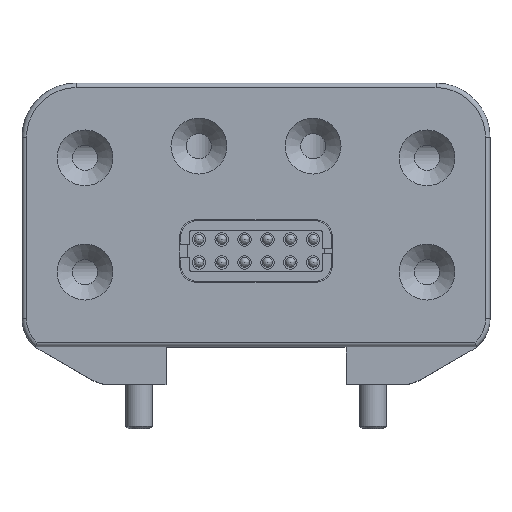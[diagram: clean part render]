
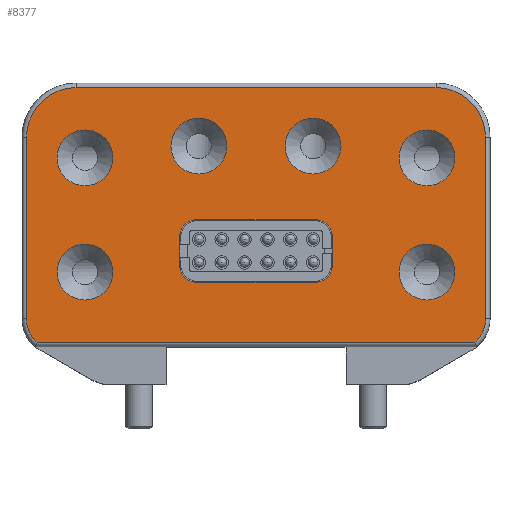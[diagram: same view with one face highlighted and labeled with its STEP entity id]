
A CAD part, top view. The second image highlights one B-rep face of the part: STEP entity #8377.
In plain terms, the highlighted planar face has unit normal (0, 0, 1).
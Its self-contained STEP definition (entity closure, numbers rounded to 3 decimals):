
#259=FACE_BOUND('',#1404,.T.);
#260=FACE_BOUND('',#1405,.T.);
#261=FACE_BOUND('',#1406,.T.);
#262=FACE_BOUND('',#1407,.T.);
#263=FACE_BOUND('',#1408,.T.);
#264=FACE_BOUND('',#1409,.T.);
#265=FACE_BOUND('',#1410,.T.);
#465=PLANE('',#9233);
#854=FACE_OUTER_BOUND('',#1403,.T.);
#1403=EDGE_LOOP('',(#6653,#6654,#6655,#6656,#6657,#6658,#6659,#6660));
#1404=EDGE_LOOP('',(#6661));
#1405=EDGE_LOOP('',(#6662));
#1406=EDGE_LOOP('',(#6663));
#1407=EDGE_LOOP('',(#6664,#6665,#6666,#6667,#6668,#6669,#6670,#6671));
#1408=EDGE_LOOP('',(#6672));
#1409=EDGE_LOOP('',(#6673));
#1410=EDGE_LOOP('',(#6674));
#1965=LINE('',#14095,#2516);
#1968=LINE('',#14138,#2519);
#1970=LINE('',#14150,#2521);
#1972=LINE('',#14162,#2523);
#1985=LINE('',#14212,#2536);
#1986=LINE('',#14216,#2537);
#1987=LINE('',#14220,#2538);
#1988=LINE('',#14223,#2539);
#2516=VECTOR('',#11212,10.);
#2519=VECTOR('',#11227,10.);
#2521=VECTOR('',#11241,10.);
#2523=VECTOR('',#11255,10.);
#2536=VECTOR('',#11304,10.);
#2537=VECTOR('',#11307,10.);
#2538=VECTOR('',#11310,10.);
#2539=VECTOR('',#11313,10.);
#3035=CIRCLE('',#9203,3.5);
#3041=CIRCLE('',#9211,5.5);
#3045=CIRCLE('',#9217,5.5);
#3048=CIRCLE('',#9222,3.5);
#3055=CIRCLE('',#9234,3.1);
#3056=CIRCLE('',#9235,3.1);
#3057=CIRCLE('',#9236,3.1);
#3058=CIRCLE('',#9237,2.);
#3059=CIRCLE('',#9238,2.);
#3060=CIRCLE('',#9239,2.);
#3061=CIRCLE('',#9240,2.);
#3062=CIRCLE('',#9241,3.1);
#3063=CIRCLE('',#9242,3.1);
#3064=CIRCLE('',#9243,3.1);
#3727=VERTEX_POINT('',#14093);
#3728=VERTEX_POINT('',#14094);
#3731=VERTEX_POINT('',#14128);
#3733=VERTEX_POINT('',#14134);
#3735=VERTEX_POINT('',#14140);
#3737=VERTEX_POINT('',#14146);
#3739=VERTEX_POINT('',#14152);
#3741=VERTEX_POINT('',#14158);
#3756=VERTEX_POINT('',#14202);
#3757=VERTEX_POINT('',#14204);
#3758=VERTEX_POINT('',#14206);
#3759=VERTEX_POINT('',#14208);
#3760=VERTEX_POINT('',#14209);
#3761=VERTEX_POINT('',#14211);
#3762=VERTEX_POINT('',#14213);
#3763=VERTEX_POINT('',#14215);
#3764=VERTEX_POINT('',#14217);
#3765=VERTEX_POINT('',#14219);
#3766=VERTEX_POINT('',#14221);
#3767=VERTEX_POINT('',#14224);
#3768=VERTEX_POINT('',#14226);
#3769=VERTEX_POINT('',#14228);
#4748=EDGE_CURVE('',#3727,#3728,#1965,.T.);
#4752=EDGE_CURVE('',#3728,#3731,#3035,.T.);
#4757=EDGE_CURVE('',#3731,#3733,#1968,.T.);
#4760=EDGE_CURVE('',#3733,#3735,#3041,.T.);
#4763=EDGE_CURVE('',#3735,#3737,#1970,.T.);
#4766=EDGE_CURVE('',#3737,#3739,#3045,.T.);
#4769=EDGE_CURVE('',#3739,#3741,#1972,.T.);
#4771=EDGE_CURVE('',#3741,#3727,#3048,.T.);
#4790=EDGE_CURVE('',#3756,#3756,#3055,.T.);
#4791=EDGE_CURVE('',#3757,#3757,#3056,.T.);
#4792=EDGE_CURVE('',#3758,#3758,#3057,.T.);
#4793=EDGE_CURVE('',#3759,#3760,#3058,.T.);
#4794=EDGE_CURVE('',#3760,#3761,#1985,.T.);
#4795=EDGE_CURVE('',#3761,#3762,#3059,.T.);
#4796=EDGE_CURVE('',#3762,#3763,#1986,.T.);
#4797=EDGE_CURVE('',#3763,#3764,#3060,.T.);
#4798=EDGE_CURVE('',#3764,#3765,#1987,.T.);
#4799=EDGE_CURVE('',#3765,#3766,#3061,.T.);
#4800=EDGE_CURVE('',#3766,#3759,#1988,.T.);
#4801=EDGE_CURVE('',#3767,#3767,#3062,.T.);
#4802=EDGE_CURVE('',#3768,#3768,#3063,.T.);
#4803=EDGE_CURVE('',#3769,#3769,#3064,.T.);
#6653=ORIENTED_EDGE('',*,*,#4748,.F.);
#6654=ORIENTED_EDGE('',*,*,#4771,.F.);
#6655=ORIENTED_EDGE('',*,*,#4769,.F.);
#6656=ORIENTED_EDGE('',*,*,#4766,.F.);
#6657=ORIENTED_EDGE('',*,*,#4763,.F.);
#6658=ORIENTED_EDGE('',*,*,#4760,.F.);
#6659=ORIENTED_EDGE('',*,*,#4757,.F.);
#6660=ORIENTED_EDGE('',*,*,#4752,.F.);
#6661=ORIENTED_EDGE('',*,*,#4790,.F.);
#6662=ORIENTED_EDGE('',*,*,#4791,.F.);
#6663=ORIENTED_EDGE('',*,*,#4792,.F.);
#6664=ORIENTED_EDGE('',*,*,#4793,.T.);
#6665=ORIENTED_EDGE('',*,*,#4794,.T.);
#6666=ORIENTED_EDGE('',*,*,#4795,.T.);
#6667=ORIENTED_EDGE('',*,*,#4796,.T.);
#6668=ORIENTED_EDGE('',*,*,#4797,.T.);
#6669=ORIENTED_EDGE('',*,*,#4798,.T.);
#6670=ORIENTED_EDGE('',*,*,#4799,.T.);
#6671=ORIENTED_EDGE('',*,*,#4800,.T.);
#6672=ORIENTED_EDGE('',*,*,#4801,.F.);
#6673=ORIENTED_EDGE('',*,*,#4802,.F.);
#6674=ORIENTED_EDGE('',*,*,#4803,.F.);
#8377=ADVANCED_FACE('',(#854,#259,#260,#261,#262,#263,#264,#265),#465,.T.);
#9203=AXIS2_PLACEMENT_3D('',#14129,#11216,#11217);
#9211=AXIS2_PLACEMENT_3D('',#14144,#11234,#11235);
#9217=AXIS2_PLACEMENT_3D('',#14156,#11248,#11249);
#9222=AXIS2_PLACEMENT_3D('',#14165,#11260,#11261);
#9233=AXIS2_PLACEMENT_3D('',#14201,#11294,#11295);
#9234=AXIS2_PLACEMENT_3D('',#14203,#11296,#11297);
#9235=AXIS2_PLACEMENT_3D('',#14205,#11298,#11299);
#9236=AXIS2_PLACEMENT_3D('',#14207,#11300,#11301);
#9237=AXIS2_PLACEMENT_3D('',#14210,#11302,#11303);
#9238=AXIS2_PLACEMENT_3D('',#14214,#11305,#11306);
#9239=AXIS2_PLACEMENT_3D('',#14218,#11308,#11309);
#9240=AXIS2_PLACEMENT_3D('',#14222,#11311,#11312);
#9241=AXIS2_PLACEMENT_3D('',#14225,#11314,#11315);
#9242=AXIS2_PLACEMENT_3D('',#14227,#11316,#11317);
#9243=AXIS2_PLACEMENT_3D('',#14229,#11318,#11319);
#11212=DIRECTION('',(-1.,0.,0.));
#11216=DIRECTION('center_axis',(0.,0.,
-1.));
#11217=DIRECTION('ref_axis',(-0.903,-0.431,0.));
#11227=DIRECTION('',(0.,1.,0.));
#11234=DIRECTION('center_axis',(0.,0.,
-1.));
#11235=DIRECTION('ref_axis',(-0.707,0.707,0.));
#11241=DIRECTION('',(1.,0.,0.));
#11248=DIRECTION('center_axis',(0.,0.,
-1.));
#11249=DIRECTION('ref_axis',(0.707,0.707,0.));
#11255=DIRECTION('',(0.,-1.,0.));
#11260=DIRECTION('center_axis',(0.,0.,
-1.));
#11261=DIRECTION('ref_axis',(0.903,-0.431,0.));
#11294=DIRECTION('center_axis',(0.,0.,
1.));
#11295=DIRECTION('ref_axis',(1.,0.,0.));
#11296=DIRECTION('center_axis',(0.,0.,
1.));
#11297=DIRECTION('ref_axis',(-1.,0.,0.));
#11298=DIRECTION('center_axis',(0.,0.,
1.));
#11299=DIRECTION('ref_axis',(-1.,0.,0.));
#11300=DIRECTION('center_axis',(0.,0.,
1.));
#11301=DIRECTION('ref_axis',(-1.,0.,0.));
#11302=DIRECTION('center_axis',(0.,0.,
-1.));
#11303=DIRECTION('ref_axis',(-1.,0.,0.));
#11304=DIRECTION('',(0.,-1.,0.));
#11305=DIRECTION('center_axis',(0.,0.,
-1.));
#11306=DIRECTION('ref_axis',(0.,1.,0.));
#11307=DIRECTION('',(-1.,0.,0.));
#11308=DIRECTION('center_axis',(0.,0.,
-1.));
#11309=DIRECTION('ref_axis',(1.,0.,0.));
#11310=DIRECTION('',(0.,1.,0.));
#11311=DIRECTION('center_axis',(0.,0.,
-1.));
#11312=DIRECTION('ref_axis',(0.,-1.,0.));
#11313=DIRECTION('',(1.,0.,0.));
#11314=DIRECTION('center_axis',(0.,0.,
1.));
#11315=DIRECTION('ref_axis',(-1.,0.,0.));
#11316=DIRECTION('center_axis',(0.,0.,
1.));
#11317=DIRECTION('ref_axis',(-1.,0.,0.));
#11318=DIRECTION('center_axis',(0.,0.,
1.));
#11319=DIRECTION('ref_axis',(-1.,0.,0.));
#14093=CARTESIAN_POINT('',(24.333,-14.15,13.8));
#14094=CARTESIAN_POINT('',(-24.333,-14.15,13.8));
#14095=CARTESIAN_POINT('',(-5.,-14.15,13.8));
#14128=CARTESIAN_POINT('',(-25.5,-11.541,13.8));
#14129=CARTESIAN_POINT('Origin',(-22.,-11.541,13.8));
#14134=CARTESIAN_POINT('',(-25.5,8.65,13.8));
#14138=CARTESIAN_POINT('',(-25.5,-10.475,13.8));
#14140=CARTESIAN_POINT('',(-20.,14.15,13.8));
#14144=CARTESIAN_POINT('Origin',(-20.,8.65,13.8));
#14146=CARTESIAN_POINT('',(20.,14.15,13.8));
#14150=CARTESIAN_POINT('',(-13.,14.15,13.8));
#14152=CARTESIAN_POINT('',(25.5,8.65,13.8));
#14156=CARTESIAN_POINT('Origin',(20.,8.65,13.8));
#14158=CARTESIAN_POINT('',(25.5,-11.541,13.8));
#14162=CARTESIAN_POINT('',(25.5,6.275,13.8));
#14165=CARTESIAN_POINT('Origin',(22.,-11.541,13.8));
#14201=CARTESIAN_POINT('Origin',(0.,-2.1,13.8));
#14202=CARTESIAN_POINT('',(9.45,7.65,13.8));
#14203=CARTESIAN_POINT('Origin',(6.35,7.65,13.8));
#14204=CARTESIAN_POINT('',(22.1,6.35,13.8));
#14205=CARTESIAN_POINT('Origin',(19.,6.35,13.8));
#14206=CARTESIAN_POINT('',(-15.9,-6.35,13.8));
#14207=CARTESIAN_POINT('Origin',(-19.,-6.35,13.8));
#14208=CARTESIAN_POINT('',(6.5,-0.5,13.8));
#14209=CARTESIAN_POINT('',(8.5,-2.5,13.8));
#14210=CARTESIAN_POINT('Origin',(6.5,-2.5,13.8));
#14211=CARTESIAN_POINT('',(8.5,-5.5,13.8));
#14212=CARTESIAN_POINT('',(8.5,-3.8,13.8));
#14213=CARTESIAN_POINT('',(6.5,-7.5,13.8));
#14214=CARTESIAN_POINT('Origin',(6.5,-5.5,13.8));
#14215=CARTESIAN_POINT('',(-6.5,-7.5,13.8));
#14216=CARTESIAN_POINT('',(-3.25,-7.5,13.8));
#14217=CARTESIAN_POINT('',(-8.5,-5.5,13.8));
#14218=CARTESIAN_POINT('Origin',(-6.5,-5.5,13.8));
#14219=CARTESIAN_POINT('',(-8.5,-2.5,13.8));
#14220=CARTESIAN_POINT('',(-8.5,-2.3,13.8));
#14221=CARTESIAN_POINT('',(-6.5,-0.5,13.8));
#14222=CARTESIAN_POINT('Origin',(-6.5,-2.5,13.8));
#14223=CARTESIAN_POINT('',(3.25,-0.5,13.8));
#14224=CARTESIAN_POINT('',(-15.9,6.35,13.8));
#14225=CARTESIAN_POINT('Origin',(-19.,6.35,13.8));
#14226=CARTESIAN_POINT('',(22.1,-6.35,13.8));
#14227=CARTESIAN_POINT('Origin',(19.,-6.35,13.8));
#14228=CARTESIAN_POINT('',(-3.25,7.65,13.8));
#14229=CARTESIAN_POINT('Origin',(-6.35,7.65,13.8));
